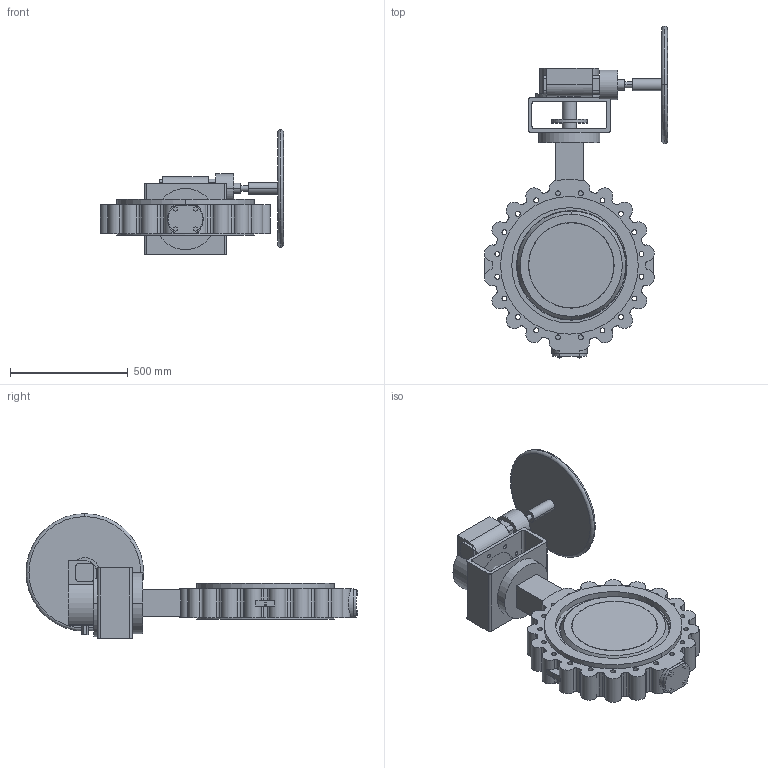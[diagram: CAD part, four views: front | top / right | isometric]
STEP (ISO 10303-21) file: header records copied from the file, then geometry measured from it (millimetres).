
FILE_DESCRIPTION( ( '' ), '1' );
FILE_NAME( 'F:/DE-SHS/TB/OR/04-Sonstiges/daten/Excel/mneugeba/018_ZETRIX-PN10_Getriebe-Rotork/c000006427.stp', '2016-09-19T06:23:16', ( '' ), ( '' ), ' ', ' ', ' ' );
FILE_SCHEMA( ( 'CONFIG_CONTROL_DESIGN' ) );
Length unit declared in the file: millimetre
Products named in the file (2): 1; 2
Bounding box: 777.93 x 1410.6 x 530 mm (x, y, z)
Volume: 61850786.1 mm3; surface area: 3186759.2 mm2
Topology: 2 solids, 2 shells, 402 faces, 1081 edges, 721 vertices
Faces by surface type: cylinder 243, plane 147, sphere 4, cone 4, torus 4
Entity records: 13800 total; most frequent: CARTESIAN_POINT 3017, DIRECTION 2392, ORIENTED_EDGE 2162, EDGE_CURVE 1081, AXIS2_PLACEMENT_3D 938, VERTEX_POINT 721, CIRCLE 534, LINE 516
